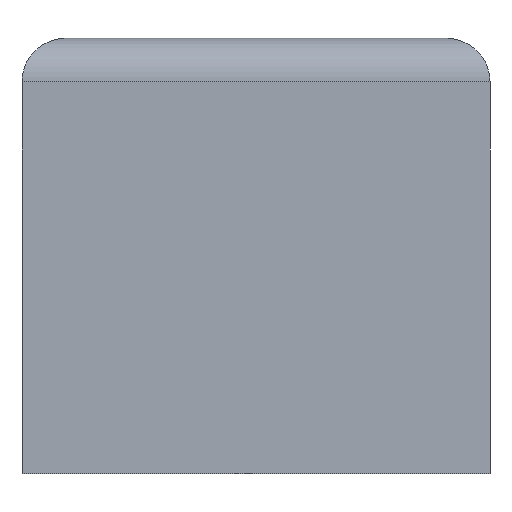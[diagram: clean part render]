
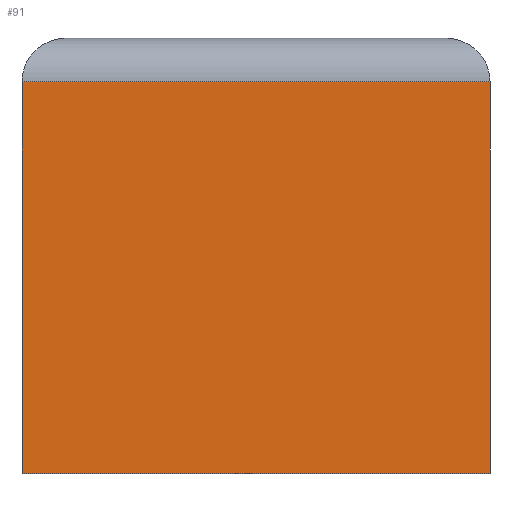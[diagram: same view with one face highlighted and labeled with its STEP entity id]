
A CAD part, front view. The second image highlights one B-rep face of the part: STEP entity #91.
In plain terms, the highlighted planar face has unit normal (0, -1, 0).
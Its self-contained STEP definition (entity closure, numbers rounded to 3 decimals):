
#21 = EDGE_CURVE('',#22,#24,#26,.T.);
#22 = VERTEX_POINT('',#23);
#23 = CARTESIAN_POINT('',(-46.,-40.,5.));
#24 = VERTEX_POINT('',#25);
#25 = CARTESIAN_POINT('',(-46.,-40.,77.));
#26 = LINE('',#27,#28);
#27 = CARTESIAN_POINT('',(-46.,-40.,5.));
#28 = VECTOR('',#29,1.);
#29 = DIRECTION('',(0.,0.,1.));
#91 = ADVANCED_FACE('',(#92),#117,.F.);
#92 = FACE_BOUND('',#93,.F.);
#93 = EDGE_LOOP('',(#94,#104,#110,#111));
#94 = ORIENTED_EDGE('',*,*,#95,.F.);
#95 = EDGE_CURVE('',#96,#98,#100,.T.);
#96 = VERTEX_POINT('',#97);
#97 = CARTESIAN_POINT('',(40.,-40.,5.));
#98 = VERTEX_POINT('',#99);
#99 = CARTESIAN_POINT('',(40.,-40.,77.));
#100 = LINE('',#101,#102);
#101 = CARTESIAN_POINT('',(40.,-40.,5.));
#102 = VECTOR('',#103,1.);
#103 = DIRECTION('',(0.,0.,1.));
#104 = ORIENTED_EDGE('',*,*,#105,.F.);
#105 = EDGE_CURVE('',#22,#96,#106,.T.);
#106 = LINE('',#107,#108);
#107 = CARTESIAN_POINT('',(-46.,-40.,5.));
#108 = VECTOR('',#109,1.);
#109 = DIRECTION('',(1.,0.,-0.));
#110 = ORIENTED_EDGE('',*,*,#21,.T.);
#111 = ORIENTED_EDGE('',*,*,#112,.T.);
#112 = EDGE_CURVE('',#24,#98,#113,.T.);
#113 = LINE('',#114,#115);
#114 = CARTESIAN_POINT('',(-46.,-40.,77.));
#115 = VECTOR('',#116,1.);
#116 = DIRECTION('',(1.,0.,-0.));
#117 = PLANE('',#118);
#118 = AXIS2_PLACEMENT_3D('',#119,#120,#121);
#119 = CARTESIAN_POINT('',(-46.,-40.,5.));
#120 = DIRECTION('',(-0.,1.,0.));
#121 = DIRECTION('',(0.,0.,1.));
